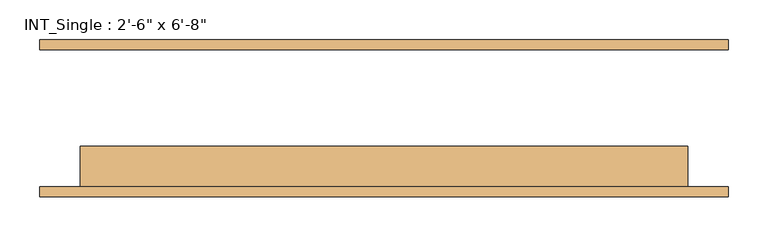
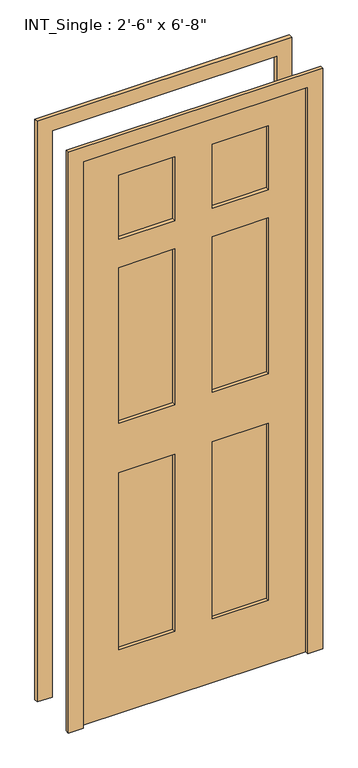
"""IFC4 building model written with IfcOpenShell, lengths in millimetres: door geometry."""

import ifcopenshell
import ifcopenshell.guid

model = None  # the IFC model being written
_history = None  # IfcOwnerHistory: only IFC2X3 demands one
_inside = {}  # id of a spatial element -> (the spatial element, [elements in it])
_under = {}  # id of a project, library or spatial element -> (it, [spatial elements below it])
_declared = {}  # id of a project -> (the project, [libraries it declares])
_typed = {}  # id of a type object -> (the type object, [elements of that type])
_made_of = {}  # id of a material, layer set ... -> (it, [elements and type objects made of it])


def new_model(schema):
    """Start an empty IFC model of exactly this schema.

    Asked for "IFC4X3", IfcOpenShell would pick the latest addendum, in which some entities
    have other attributes; the version numbers below select the first issue.
    IFC2X3 requires an IfcOwnerHistory on every rooted entity: one is made here for all.
    """
    global model, _history
    if schema == "IFC4X3":
        model = ifcopenshell.file(schema_version=(4, 3, 0, 0))
    else:
        model = ifcopenshell.file(schema=schema)
    _inside.clear()
    _under.clear()
    _declared.clear()
    _typed.clear()
    _made_of.clear()
    _history = None
    if model.schema == "IFC2X3":
        org = make("IfcOrganization", Name="unknown")
        user = make(
            "IfcPersonAndOrganization",
            ThePerson=make("IfcPerson", FamilyName="unknown"),
            TheOrganization=org,
        )
        app = make(
            "IfcApplication",
            ApplicationDeveloper=org,
            Version="unknown",
            ApplicationFullName="unknown",
            ApplicationIdentifier="unknown",
        )
        _history = make(
            "IfcOwnerHistory",
            OwningUser=user,
            OwningApplication=app,
            ChangeAction="ADDED",
            CreationDate=0,
        )
    return model


def make(cls, **values):
    """One entity of the class cls with the attributes given. An attribute that is None is left unset."""
    return model.create_entity(
        cls, **{name: value for name, value in values.items() if value is not None}
    )


def rooted(cls, **values):
    """An entity with a GlobalId (a new one), such as an element, a storey or a relation."""
    return make(cls, GlobalId=ifcopenshell.guid.new(), OwnerHistory=_history, **values)


def si_unit(unit_type, name, prefix=None):
    """IfcSIUnit, for example si_unit("LENGTHUNIT", "METRE", prefix="MILLI")."""
    return make("IfcSIUnit", UnitType=unit_type, Prefix=prefix, Name=name)


def assignment(units):
    """IfcUnitAssignment: the units of a project."""
    return None if units is None else make("IfcUnitAssignment", Units=units)


def point(xyz):
    """IfcCartesianPoint."""
    return None if xyz is None else make("IfcCartesianPoint", Coordinates=xyz)


def direction(xyz):
    """IfcDirection."""
    return None if xyz is None else make("IfcDirection", DirectionRatios=xyz)


def frame(location, z_axis=None, x_axis=None):
    """IfcAxis2Placement3D, a coordinate frame: its origin and axes. An axis left out is left unset."""
    return make(
        "IfcAxis2Placement3D",
        Location=point(location),
        Axis=direction(z_axis),
        RefDirection=direction(x_axis),
    )


def origin():
    """The frame at (0, 0, 0) with its axes left unset."""
    return frame((0.0, 0.0, 0.0))


def place(relative_to, where):
    """IfcLocalPlacement: puts the frame where relative to a parent placement (None: the world)."""
    return make(
        "IfcLocalPlacement", PlacementRelTo=relative_to, RelativePlacement=where
    )


def context(
    kind, dimensions, precision=None, world=None, true_north=None, identifier=None
):
    """IfcGeometricRepresentationContext, for example the 3D "Model" context."""
    return make(
        "IfcGeometricRepresentationContext",
        ContextIdentifier=identifier,
        ContextType=kind,
        CoordinateSpaceDimension=dimensions,
        Precision=precision,
        WorldCoordinateSystem=world,
        TrueNorth=true_north,
    )


def project(units=None, contexts=None):
    """IfcProject with its units and contexts."""
    return rooted(
        "IfcProject",
        Name="project",
        RepresentationContexts=contexts,
        UnitsInContext=assignment(units),
    )


def spatial(cls, under=None, at=None, **own):
    """A site, building, storey or space (cls), placed at a placement, below another one or the project."""
    s = rooted(cls, ObjectPlacement=at, **own)
    if under is not None:
        _under.setdefault(under.id(), (under, []))[1].append(s)
    return s


def polyline(points):
    """IfcPolyline through the points."""
    return make("IfcPolyline", Points=[point(p) for p in points])


def outline(outer, holes=None, kind="AREA"):
    """IfcArbitraryClosedProfileDef: a profile drawn as a closed curve; with holes, ...WithVoids."""
    if holes is None:
        return make("IfcArbitraryClosedProfileDef", ProfileType=kind, OuterCurve=outer)
    return make(
        "IfcArbitraryProfileDefWithVoids",
        ProfileType=kind,
        OuterCurve=outer,
        InnerCurves=holes,
    )


def extrude(swept, where, along, depth):
    """IfcExtrudedAreaSolid: the profile swept, set in the frame where, extruded along a direction by depth."""
    return make(
        "IfcExtrudedAreaSolid",
        SweptArea=swept,
        Position=where,
        ExtrudedDirection=direction(along),
        Depth=depth,
    )


def shape(context_of_items, identifier, shape_type, items):
    """IfcShapeRepresentation: the items that make up one representation, for example the "Body"."""
    return make(
        "IfcShapeRepresentation",
        ContextOfItems=context_of_items,
        RepresentationIdentifier=identifier,
        RepresentationType=shape_type,
        Items=items,
    )


def source(mapping_origin, context_of_items, identifier, shape_type, items):
    """IfcRepresentationMap: a shape defined once, which mapped items show again and again."""
    return make(
        "IfcRepresentationMap",
        MappingOrigin=mapping_origin,
        MappedRepresentation=shape(context_of_items, identifier, shape_type, items),
    )


def transform(
    local_origin,
    x_axis=None,
    y_axis=None,
    z_axis=None,
    scale=None,
    scale2=None,
    scale3=None,
    uniform=True,
):
    """IfcCartesianTransformationOperator3D, or its non-uniform kind. x_axis, y_axis, z_axis: its Axis1, 2, 3."""
    if uniform:
        return make(
            "IfcCartesianTransformationOperator3D",
            Axis1=direction(x_axis),
            Axis2=direction(y_axis),
            LocalOrigin=point(local_origin),
            Scale=scale,
            Axis3=direction(z_axis),
        )
    return make(
        "IfcCartesianTransformationOperator3DnonUniform",
        Axis1=direction(x_axis),
        Axis2=direction(y_axis),
        LocalOrigin=point(local_origin),
        Scale=scale,
        Axis3=direction(z_axis),
        Scale2=scale2,
        Scale3=scale3,
    )


def mapped(mapping_source, mapping_target):
    """IfcMappedItem: shows the shape of a source again, moved by a transform."""
    return make(
        "IfcMappedItem", MappingSource=mapping_source, MappingTarget=mapping_target
    )


def made_of(thing, what):
    """Note that an element or type object is made of a material, layer set ...; save() writes the relation."""
    if what is not None:
        _made_of.setdefault(what.id(), (what, []))[1].append(thing)
    return thing


def element(
    cls,
    number,
    at=None,
    inside=None,
    cuts=None,
    type_object=None,
    material=None,
    context=None,
    identifier="Body",
    shape_type=None,
    held_by="IfcProductDefinitionShape",
    body=None,
    shapes=None,
    **own,
):
    """One element of the class cls, such as IfcWall. Its Tag is "e" and its number.

    at: its placement. inside: the storey or other place that contains it. cuts: it is an
    opening in that element (IfcRelVoidsElement). A single representation is given by context,
    identifier, shape_type and body (its items); several are given by shapes. held_by: the class
    of the entity that holds the representations. save() writes the other relations.
    """
    e = rooted(cls, Tag="e%d" % number, ObjectPlacement=at, **own)
    if body is not None:
        shapes = [shape(context, identifier, shape_type, body)]
    if shapes is not None:
        e.Representation = make(held_by, Representations=shapes)
    if inside is not None:
        _inside.setdefault(inside.id(), (inside, []))[1].append(e)
    if cuts is not None:
        rooted(
            "IfcRelVoidsElement", RelatingBuildingElement=cuts, RelatedOpeningElement=e
        )
    if type_object is not None:
        _typed.setdefault(type_object.id(), (type_object, []))[1].append(e)
    return made_of(e, material)


def aggregate(whole, parts):
    """IfcRelAggregates: a whole, such as a stair, and the parts it consists of."""
    return rooted("IfcRelAggregates", RelatingObject=whole, RelatedObjects=parts)


def save(model, path):
    """Write the relations noted so far, then the file.

    IfcRelAggregates (storeys below a building ...), IfcRelContainedInSpatialStructure (elements
    in a storey), IfcRelDefinesByType, IfcRelAssociatesMaterial and IfcRelDeclares: one each for
    every whole, place, type object, material and project.
    """
    for whole, parts in _under.values():
        aggregate(whole, parts)
    for where, things in _inside.values():
        rooted(
            "IfcRelContainedInSpatialStructure",
            RelatedElements=things,
            RelatingStructure=where,
        )
    for kind, things in _typed.values():
        rooted("IfcRelDefinesByType", RelatedObjects=things, RelatingType=kind)
    for what, things in _made_of.values():
        rooted("IfcRelAssociatesMaterial", RelatedObjects=things, RelatingMaterial=what)
    for by, libraries in _declared.values():
        rooted("IfcRelDeclares", RelatingContext=by, RelatedDefinitions=libraries)
    model.write(path)


def door_bac94f7e(model_context):
    return source(origin(), model_context, "Body", "SweptSolid", [
        extrude(outline(polyline([(0.0, -431.8), (0.0, -381.0), (2032.0, -381.0), (2032.0, 381.0), (0.0, 381.0), (0.0, 431.8), (2082.8, 431.8), (2082.8, -431.8), (0.0, -431.8)])), frame((0.0, 85.725, 0.0), z_axis=(0.0, 1.0, 0.0), x_axis=(0.0, 0.0, 1.0)), (0.0, 0.0, 1.0), 12.7),
        extrude(outline(polyline([(0.0, 431.8), (2082.8, 431.8), (2082.8, -431.8), (0.0, -431.8), (0.0, -381.0), (2032.0, -381.0), (2032.0, 381.0), (0.0, 381.0), (0.0, 431.8)])), frame((0.0, -98.425, 0.0), z_axis=(0.0, 1.0, 0.0), x_axis=(0.0, 0.0, 1.0)), (0.0, 0.0, 1.0), 12.7),
        extrude(outline(polyline([(-63.5, -47.625), (-63.5, -73.025), (-254.0, -73.025), (-254.0, -47.625), (-63.5, -47.625)])), frame((0.0, 0.0, 1701.8), z_axis=(0.0, 0.0, 1.0), x_axis=(1.0, 0.0, 0.0)), (0.0, 0.0, 1.0), 228.6),
        extrude(outline(polyline([(254.0, -47.625), (254.0, -73.025), (63.5, -73.025), (63.5, -47.625), (254.0, -47.625)])), frame((0.0, 0.0, 1701.8), z_axis=(0.0, 0.0, 1.0), x_axis=(1.0, 0.0, 0.0)), (0.0, 0.0, 1.0), 228.6),
        extrude(outline(polyline([(-63.5, -47.625), (-63.5, -73.025), (-254.0, -73.025), (-254.0, -47.625), (-63.5, -47.625)])), frame((0.0, 0.0, 1041.4), z_axis=(0.0, 0.0, 1.0), x_axis=(1.0, 0.0, 0.0)), (0.0, 0.0, 1.0), 558.8),
        extrude(outline(polyline([(254.0, -47.625), (254.0, -73.025), (63.5, -73.025), (63.5, -47.625), (254.0, -47.625)])), frame((0.0, 0.0, 1041.4), z_axis=(0.0, 0.0, 1.0), x_axis=(1.0, 0.0, 0.0)), (0.0, 0.0, 1.0), 558.8),
        extrude(outline(polyline([(-63.5, -47.625), (-63.5, -73.025), (-254.0, -73.025), (-254.0, -47.625), (-63.5, -47.625)])), frame((0.0, 0.0, 228.6), z_axis=(0.0, 0.0, 1.0), x_axis=(1.0, 0.0, 0.0)), (0.0, 0.0, 1.0), 635.0),
        extrude(outline(polyline([(254.0, -47.625), (254.0, -73.025), (63.5, -73.025), (63.5, -47.625), (254.0, -47.625)])), frame((0.0, 0.0, 228.6), z_axis=(0.0, 0.0, 1.0), x_axis=(1.0, 0.0, 0.0)), (0.0, 0.0, 1.0), 635.0),
        extrude(outline(polyline([(2032.0, 381.0), (2032.0, -381.0), (0.0, -381.0), (0.0, 381.0), (2032.0, 381.0)]), holes=[polyline([(1930.4, -63.5), (1701.8, -63.5), (1701.8, -254.0), (1930.4, -254.0), (1930.4, -63.5)]), polyline([(1930.4, 254.0), (1701.8, 254.0), (1701.8, 63.5), (1930.4, 63.5), (1930.4, 254.0)]), polyline([(1600.2, -63.5), (1041.4, -63.5), (1041.4, -254.0), (1600.2, -254.0), (1600.2, -63.5)]), polyline([(1600.2, 254.0), (1041.4, 254.0), (1041.4, 63.5), (1600.2, 63.5), (1600.2, 254.0)]), polyline([(863.6, -63.5), (228.6, -63.5), (228.6, -254.0), (863.6, -254.0), (863.6, -63.5)]), polyline([(863.6, 254.0), (228.6, 254.0), (228.6, 63.5), (863.6, 63.5), (863.6, 254.0)])]), frame((0.0, -85.725, 0.0), z_axis=(0.0, 1.0, 0.0), x_axis=(0.0, 0.0, 1.0)), (0.0, 0.0, 1.0), 50.8),
    ])


if __name__ == "__main__":
    model = new_model("IFC4")
    model_context = context("Model", 3, world=origin())
    ifc_project = project(units=[si_unit("LENGTHUNIT", "METRE", prefix="MILLI")], contexts=[model_context])
    site = spatial("IfcSite", under=ifc_project)
    building = spatial("IfcBuilding", under=site)
    placement = place(None, origin())
    door_shape = door_bac94f7e(model_context)
    element("IfcDoor", 1, ObjectType="INT_Single : 2'-6\" x 6'-8\"", at=placement, inside=building, context=model_context, shape_type="MappedRepresentation", body=[
        mapped(door_shape, transform((0.0, 0.0, 0.0), x_axis=(1.0, 0.0, 0.0), y_axis=(0.0, 1.0, 0.0), z_axis=(0.0, 0.0, 1.0))),
    ])
    save(model, "model.ifc")
